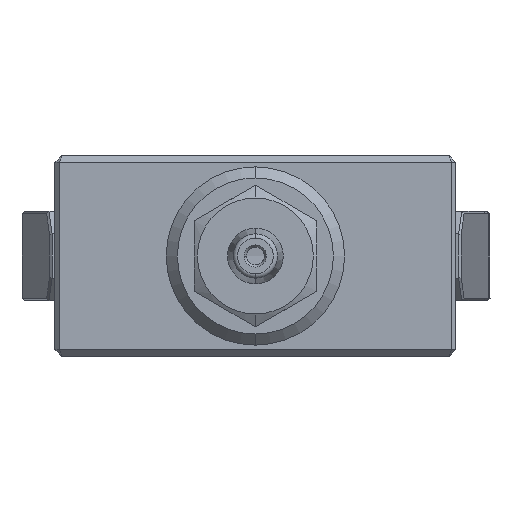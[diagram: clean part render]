
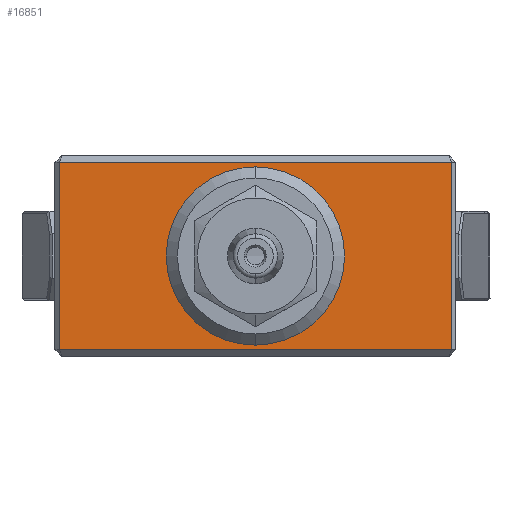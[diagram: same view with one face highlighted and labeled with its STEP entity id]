
A CAD part, front view. The second image highlights one B-rep face of the part: STEP entity #16851.
In plain terms, the highlighted planar face has unit normal (0, -1, 0).
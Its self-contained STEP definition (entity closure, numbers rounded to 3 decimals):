
#137 = LINE ( 'NONE', #34635, #8613 ) ;
#1869 = CARTESIAN_POINT ( 'NONE',  ( -8.8, -10.25, -0.3 ) ) ;
#3174 = VERTEX_POINT ( 'NONE', #9913 ) ;
#4149 = EDGE_CURVE ( 'NONE', #3174, #9151, #28813, .T. ) ;
#5875 = CARTESIAN_POINT ( 'NONE',  ( -8.8, -10.25, -0.3 ) ) ;
#5942 = EDGE_CURVE ( 'NONE', #12355, #8920, #13916, .T. ) ;
#7333 = DIRECTION ( 'NONE',  ( 0., -1., 0. ) ) ;
#7693 = EDGE_CURVE ( 'NONE', #20359, #11858, #24669, .T. ) ;
#7967 = CARTESIAN_POINT ( 'NONE',  ( 9., -10.25, 0. ) ) ;
#8613 = VECTOR ( 'NONE', #15330, 1000. ) ;
#8714 = CARTESIAN_POINT ( 'NONE',  ( 0., -10.25, -4.5 ) ) ;
#8920 = VERTEX_POINT ( 'NONE', #10558 ) ;
#9151 = VERTEX_POINT ( 'NONE', #15249 ) ;
#9913 = CARTESIAN_POINT ( 'NONE',  ( 0., -10.25, -8.5 ) ) ;
#10262 = CARTESIAN_POINT ( 'NONE',  ( 8.8, -10.25, 0. ) ) ;
#10558 = CARTESIAN_POINT ( 'NONE',  ( 8.8, -10.25, -0.3 ) ) ;
#11147 = DIRECTION ( 'NONE',  ( 0., 0., -1. ) ) ;
#11858 = VERTEX_POINT ( 'NONE', #17907 ) ;
#11911 = DIRECTION ( 'NONE',  ( 1., 0., 0. ) ) ;
#12355 = VERTEX_POINT ( 'NONE', #33810 ) ;
#12711 = EDGE_CURVE ( 'NONE', #11858, #12355, #137, .T. ) ;
#13379 = CARTESIAN_POINT ( 'NONE',  ( -8.8, -10.25, 0. ) ) ;
#13916 = LINE ( 'NONE', #10262, #21401 ) ;
#14560 = FACE_BOUND ( 'NONE', #23297, .T. ) ;
#14833 = AXIS2_PLACEMENT_3D ( 'NONE', #7967, #30300, #11147 ) ;
#15249 = CARTESIAN_POINT ( 'NONE',  ( 0., -10.25, -0.5 ) ) ;
#15330 = DIRECTION ( 'NONE',  ( 1., 0., 0. ) ) ;
#16650 = DIRECTION ( 'NONE',  ( 0., 0., -1. ) ) ;
#16705 = ORIENTED_EDGE ( 'NONE', *, *, #12711, .T. ) ;
#16851 = ADVANCED_FACE ( 'NONE', ( #39106, #14560 ), #23739, .T. ) ;
#17080 = LINE ( 'NONE', #1869, #28543 ) ;
#17907 = CARTESIAN_POINT ( 'NONE',  ( -8.8, -10.25, -8.7 ) ) ;
#19884 = DIRECTION ( 'NONE',  ( 0., 0., 1. ) ) ;
#20359 = VERTEX_POINT ( 'NONE', #5875 ) ;
#21401 = VECTOR ( 'NONE', #19884, 1000. ) ;
#23297 = EDGE_LOOP ( 'NONE', ( #25474, #31779 ) ) ;
#23739 = PLANE ( 'NONE',  #14833 ) ;
#24187 = DIRECTION ( 'NONE',  ( -1., 0., 0. ) ) ;
#24245 = EDGE_LOOP ( 'NONE', ( #27656, #26239, #16705, #39313 ) ) ;
#24669 = LINE ( 'NONE', #13379, #33235 ) ;
#25474 = ORIENTED_EDGE ( 'NONE', *, *, #39620, .F. ) ;
#25761 = AXIS2_PLACEMENT_3D ( 'NONE', #8714, #31061, #11911 ) ;
#26239 = ORIENTED_EDGE ( 'NONE', *, *, #7693, .T. ) ;
#26417 = CARTESIAN_POINT ( 'NONE',  ( 0., -10.25, -4.5 ) ) ;
#27656 = ORIENTED_EDGE ( 'NONE', *, *, #33494, .T. ) ;
#28543 = VECTOR ( 'NONE', #24187, 1000. ) ;
#28813 = CIRCLE ( 'NONE', #25761, 4. ) ;
#29662 = DIRECTION ( 'NONE',  ( 1., 0., 0. ) ) ;
#30300 = DIRECTION ( 'NONE',  ( 0., -1., 0. ) ) ;
#31061 = DIRECTION ( 'NONE',  ( 0., -1., 0. ) ) ;
#31374 = AXIS2_PLACEMENT_3D ( 'NONE', #26417, #7333, #29662 ) ;
#31779 = ORIENTED_EDGE ( 'NONE', *, *, #4149, .F. ) ;
#33235 = VECTOR ( 'NONE', #16650, 1000. ) ;
#33494 = EDGE_CURVE ( 'NONE', #8920, #20359, #17080, .T. ) ;
#33810 = CARTESIAN_POINT ( 'NONE',  ( 8.8, -10.25, -8.7 ) ) ;
#34635 = CARTESIAN_POINT ( 'NONE',  ( 9., -10.25, -8.7 ) ) ;
#39106 = FACE_OUTER_BOUND ( 'NONE', #24245, .T. ) ;
#39313 = ORIENTED_EDGE ( 'NONE', *, *, #5942, .T. ) ;
#39620 = EDGE_CURVE ( 'NONE', #9151, #3174, #39989, .T. ) ;
#39989 = CIRCLE ( 'NONE', #31374, 4. ) ;
